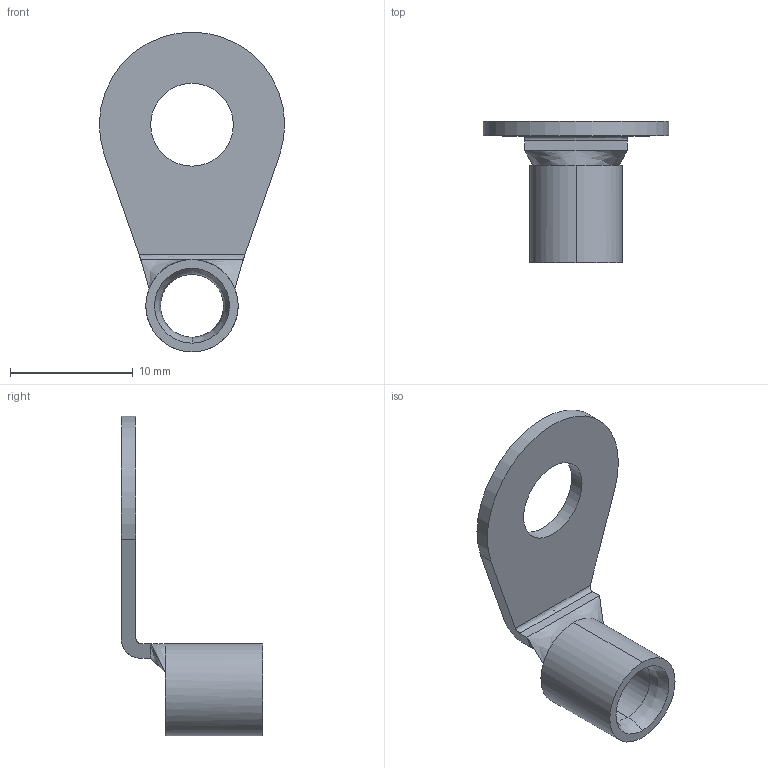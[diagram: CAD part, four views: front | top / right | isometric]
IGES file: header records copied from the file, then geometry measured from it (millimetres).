
Start section:  PTC IGES file: c-35277-e1-3d.igs
Global section: file name: c-35277-e1-3d.igs; native system: Pro/ENGINEER by Parametric Technology Corporation; preprocessor: 2005450; author: workeradm; organization: Unknown; date: 071212.153826; units: millimetre
Bounding box: 15.09 x 11.51 x 26.04 mm (x, y, z)
Surface area: 863.5 mm2 (no closed solid volume)
Topology: 0 solids, 0 shells, 23 faces, 120 edges, 120 vertices
Faces by surface type: bspline 12, revolution 11
